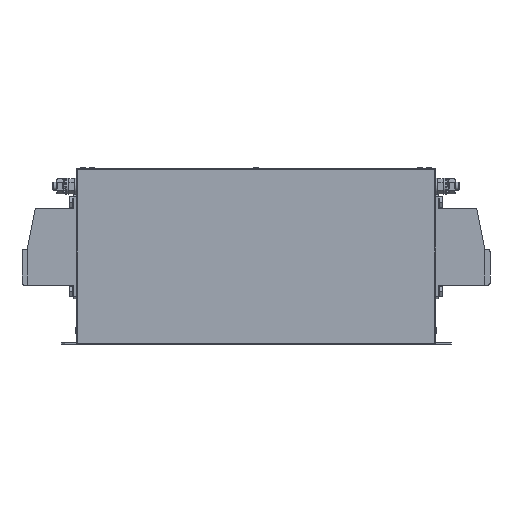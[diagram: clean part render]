
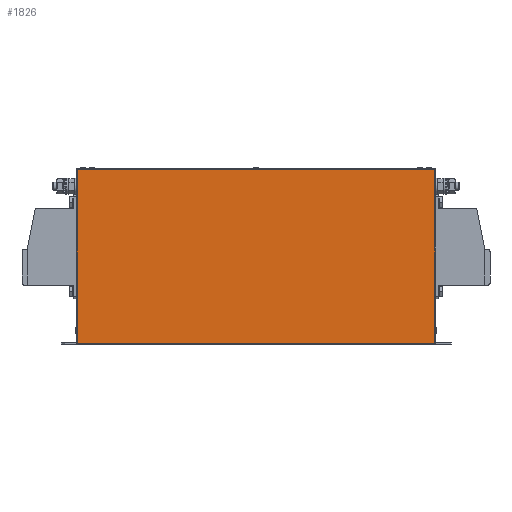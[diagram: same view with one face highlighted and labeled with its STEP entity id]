
A CAD part, front view. The second image highlights one B-rep face of the part: STEP entity #1826.
In plain terms, the highlighted planar face has unit normal (0, -1, 0).
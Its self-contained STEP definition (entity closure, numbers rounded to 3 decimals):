
#1826=ADVANCED_FACE('',(#3837),#3839,.T.);
#3837=FACE_BOUND('',#3838,.T.);
#3838=EDGE_LOOP('',(#6401,#6402,#6403,#6404));
#3839=PLANE('',#3840);
#3840=AXIS2_PLACEMENT_3D('',#3841,#3842,#3843);
#3841=CARTESIAN_POINT('',(-175.,-60.,0.));
#3842=DIRECTION('',(0.,-1.,0.));
#3843=DIRECTION('',(1.,0.,0.));
#6401=ORIENTED_EDGE('',*,*,#7862,.T.);
#6402=ORIENTED_EDGE('',*,*,#7836,.T.);
#6403=ORIENTED_EDGE('',*,*,#7857,.F.);
#6404=ORIENTED_EDGE('',*,*,#7792,.F.);
#7792=EDGE_CURVE('',#9220,#9222,#9223,.T.);
#7836=EDGE_CURVE('',#9298,#9299,#9300,.T.);
#7857=EDGE_CURVE('',#9222,#9299,#9332,.T.);
#7862=EDGE_CURVE('',#9220,#9298,#9337,.T.);
#9220=VERTEX_POINT('',#12131);
#9222=VERTEX_POINT('',#12136);
#9223=LINE('',#12137,#12138);
#9298=VERTEX_POINT('',#12312);
#9299=VERTEX_POINT('',#12313);
#9300=LINE('',#12314,#12315);
#9332=LINE('',#12397,#12398);
#9337=LINE('',#12416,#12417);
#12131=CARTESIAN_POINT('',(-174.,-60.,1.));
#12136=CARTESIAN_POINT('',(-174.,-60.,170.));
#12137=CARTESIAN_POINT('',(-174.,-60.,1.));
#12138=VECTOR('',#12139,1.);
#12139=DIRECTION('',(0.,0.,1.));
#12312=CARTESIAN_POINT('',(174.,-60.,1.));
#12313=CARTESIAN_POINT('',(174.,-60.,170.));
#12314=CARTESIAN_POINT('',(174.,-60.,1.));
#12315=VECTOR('',#12316,1.);
#12316=DIRECTION('',(0.,0.,1.));
#12397=CARTESIAN_POINT('',(-174.,-60.,170.));
#12398=VECTOR('',#12399,1.);
#12399=DIRECTION('',(1.,0.,0.));
#12416=CARTESIAN_POINT('',(-174.,-60.,1.));
#12417=VECTOR('',#12418,1.);
#12418=DIRECTION('',(1.,0.,0.));
